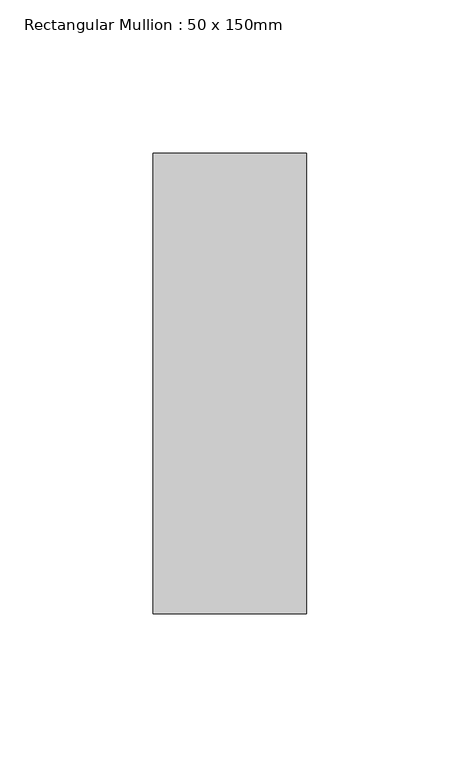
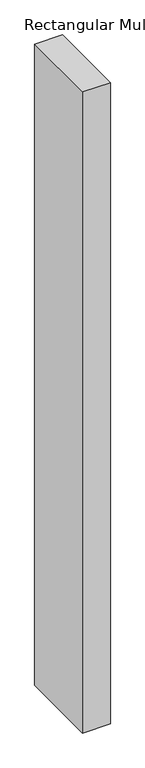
"""IFC4 building model written with IfcOpenShell, lengths in millimetres: member geometry, Rectangular Mullion : 50 x 150mm."""

from ifc_helpers import new_model, si_unit, frame, origin, place, context, project, spatial, polyline, outline, extrude, source, transform, mapped, element, save


def rectangular_mullion_50_x_150mm_ca70b892(model_context):
    return source(origin(), model_context, "Body", "SweptSolid", [
        extrude(outline(polyline([(0.0, 75.0), (0.0, -75.0), (-50.0, -75.0), (-50.0, 75.0), (0.0, 75.0)])), frame((0.0, 0.0, -1224.8468786), z_axis=(0.0, 0.0, 1.0), x_axis=(1.0, 0.0, 0.0)), (0.0, 0.0, 1.0), 1224.8468786),
    ])


if __name__ == "__main__":
    model = new_model("IFC4")
    model_context = context("Model", 3, world=origin())
    ifc_project = project(units=[si_unit("LENGTHUNIT", "METRE", prefix="MILLI")], contexts=[model_context])
    site = spatial("IfcSite", under=ifc_project)
    building = spatial("IfcBuilding", under=site)
    placement = place(None, origin())
    rectangular_mullion_50_x_150mm_shape = rectangular_mullion_50_x_150mm_ca70b892(model_context)
    element("IfcMember", 1, ObjectType="Rectangular Mullion : 50 x 150mm", at=placement, inside=building, context=model_context, shape_type="MappedRepresentation", body=[
        mapped(rectangular_mullion_50_x_150mm_shape, transform((0.0, 0.0, 0.0), x_axis=(1.0, 0.0, 0.0), y_axis=(0.0, 1.0, 0.0), z_axis=(0.0, 0.0, 1.0))),
    ])
    save(model, "model.ifc")
